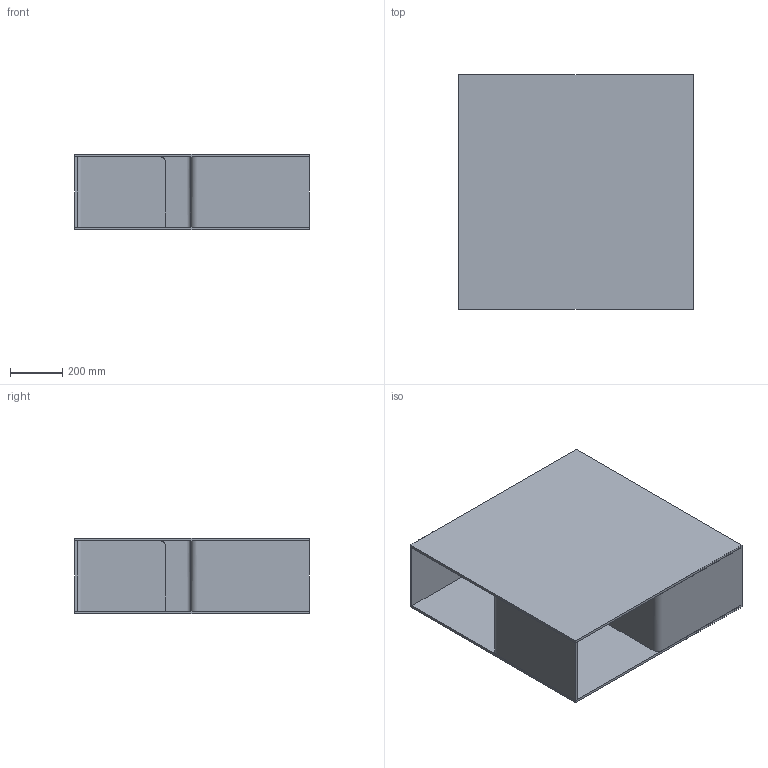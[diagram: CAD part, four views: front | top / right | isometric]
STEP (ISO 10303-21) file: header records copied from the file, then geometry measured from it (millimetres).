
FILE_DESCRIPTION(/* description */ (''),/* implementation_level */ '2;1');
FILE_NAME(/* name */ '204690 - quadra 90x90',/* time_stamp */ '2014-07-31T14:52:20+02:00',/* author */ (''),/* organization */ (''),/* preprocessor_version */ 'ST-DEVELOPER v10',/* originating_system */ '',/* authorisation */ '');
FILE_SCHEMA (('CONFIG_CONTROL_DESIGN'));
Length unit declared in the file: millimetre
Products named in the file (1): 1
Bounding box: 900 x 900 x 290 mm (x, y, z)
Volume: 24214045.7 mm3; surface area: 5089004.7 mm2
Topology: 6 solids, 6 shells, 40 faces, 84 edges, 56 vertices
Faces by surface type: plane 28, bspline 12
Entity records: 1184 total; most frequent: CARTESIAN_POINT 518, ORIENTED_EDGE 168, EDGE_CURVE 84, VERTEX_POINT 56, B_SPLINE_CURVE_WITH_KNOTS 52, ADVANCED_FACE 40, FACE_OUTER_BOUND 40, EDGE_LOOP 40
